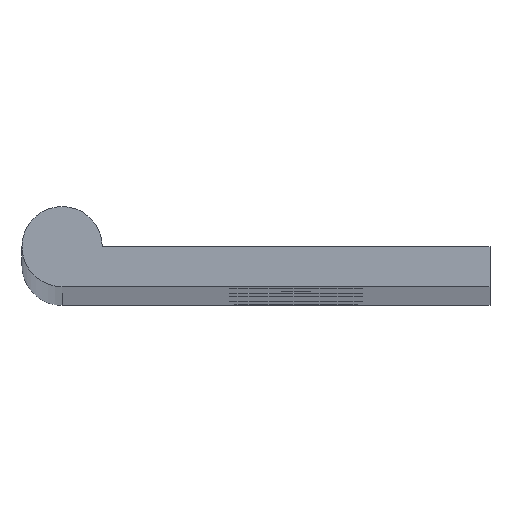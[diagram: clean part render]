
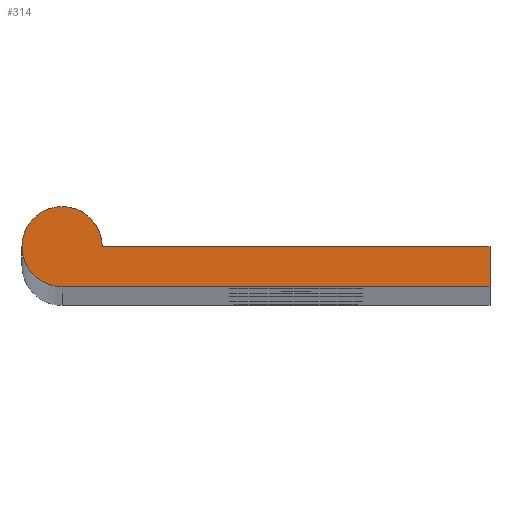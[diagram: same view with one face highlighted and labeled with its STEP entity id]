
A CAD part, top view. The second image highlights one B-rep face of the part: STEP entity #314.
In plain terms, the highlighted planar face has unit normal (0, 0, 1).
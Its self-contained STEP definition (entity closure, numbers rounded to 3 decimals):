
#3 = EDGE_CURVE ( 'NONE', #322, #276, #370, .T. ) ;
#37 = VECTOR ( 'NONE', #472, 1000. ) ;
#42 = CARTESIAN_POINT ( 'NONE',  ( 0., 0., 200. ) ) ;
#47 = ORIENTED_EDGE ( 'NONE', *, *, #3, .T. ) ;
#58 = CARTESIAN_POINT ( 'NONE',  ( 16., -1.5, 200. ) ) ;
#61 = ORIENTED_EDGE ( 'NONE', *, *, #194, .T. ) ;
#89 = VECTOR ( 'NONE', #199, 1000. ) ;
#107 = CARTESIAN_POINT ( 'NONE',  ( 16., -1.5, 200. ) ) ;
#118 = VERTEX_POINT ( 'NONE', #187 ) ;
#119 = VECTOR ( 'NONE', #367, 1000. ) ;
#128 = AXIS2_PLACEMENT_3D ( 'NONE', #210, #134, #357 ) ;
#134 = DIRECTION ( 'NONE',  ( 0., 0., 1. ) ) ;
#161 = DIRECTION ( 'NONE',  ( -1., 0., 0. ) ) ;
#170 = AXIS2_PLACEMENT_3D ( 'NONE', #42, #373, #161 ) ;
#174 = EDGE_LOOP ( 'NONE', ( #463, #374, #47, #61 ) ) ;
#187 = CARTESIAN_POINT ( 'NONE',  ( 16., 0., 200. ) ) ;
#194 = EDGE_CURVE ( 'NONE', #276, #421, #475, .T. ) ;
#199 = DIRECTION ( 'NONE',  ( 0., 1., 0. ) ) ;
#210 = CARTESIAN_POINT ( 'NONE',  ( 0., 0., 200. ) ) ;
#221 = LINE ( 'NONE', #401, #119 ) ;
#230 = CARTESIAN_POINT ( 'NONE',  ( 0., -1.5, 200. ) ) ;
#231 = EDGE_CURVE ( 'NONE', #118, #322, #221, .T. ) ;
#248 = LINE ( 'NONE', #392, #89 ) ;
#266 = CARTESIAN_POINT ( 'NONE',  ( 1.5, 0., 200. ) ) ;
#274 = FACE_OUTER_BOUND ( 'NONE', #174, .T. ) ;
#276 = VERTEX_POINT ( 'NONE', #230 ) ;
#314 = ADVANCED_FACE ( 'NONE', ( #274 ), #343, .F. ) ;
#322 = VERTEX_POINT ( 'NONE', #266 ) ;
#343 = PLANE ( 'NONE',  #170 ) ;
#357 = DIRECTION ( 'NONE',  ( -1., 0., 0. ) ) ;
#367 = DIRECTION ( 'NONE',  ( -1., 0., 0. ) ) ;
#370 = CIRCLE ( 'NONE', #128, 1.5 ) ;
#373 = DIRECTION ( 'NONE',  ( 0., 0., -1. ) ) ;
#374 = ORIENTED_EDGE ( 'NONE', *, *, #231, .T. ) ;
#392 = CARTESIAN_POINT ( 'NONE',  ( 16., 0., 200. ) ) ;
#401 = CARTESIAN_POINT ( 'NONE',  ( 1.5, 0., 200. ) ) ;
#421 = VERTEX_POINT ( 'NONE', #58 ) ;
#459 = EDGE_CURVE ( 'NONE', #421, #118, #248, .T. ) ;
#463 = ORIENTED_EDGE ( 'NONE', *, *, #459, .T. ) ;
#472 = DIRECTION ( 'NONE',  ( 1., 0., 0. ) ) ;
#475 = LINE ( 'NONE', #107, #37 ) ;
